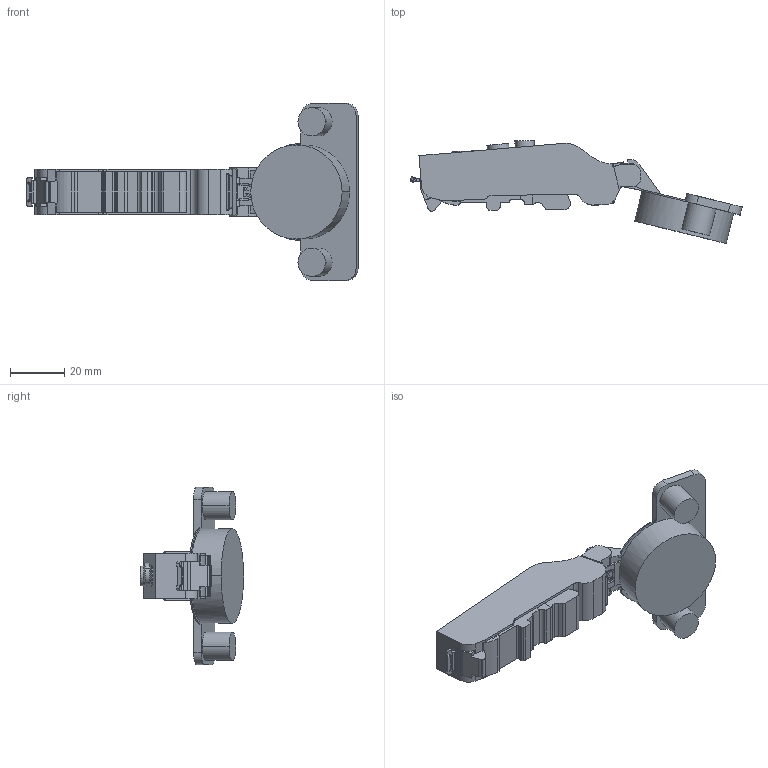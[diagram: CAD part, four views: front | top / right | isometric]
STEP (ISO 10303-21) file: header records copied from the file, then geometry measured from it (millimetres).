
FILE_DESCRIPTION (( 'STEP AP203' ), '1' );
FILE_NAME ('C81A877MFAB DTC 3D OPEN.STEP', '2024-07-18T07:28:27', ( '微软用户' ), ( '微软中国' ), 'SwSTEP 2.0', 'SolidWorks 2021', '' );
FILE_SCHEMA (( 'CONFIG_CONTROL_DESIGN' ));
Length unit declared in the file: millimetre
Products named in the file (1): C81A877MFAB DTC 3D OPEN
Bounding box: 122.83 x 38.13 x 65.6 mm (x, y, z)
Volume: 43059.7 mm3; surface area: 13233.7 mm2
Topology: 1 solids, 2 shells, 392 faces, 1126 edges, 744 vertices
Faces by surface type: plane 205, cylinder 145, torus 20, bspline 16, cone 6
Entity records: 13619 total; most frequent: CARTESIAN_POINT 3372, ORIENTED_EDGE 2252, DIRECTION 2050, EDGE_CURVE 1126, VERTEX_POINT 744, AXIS2_PLACEMENT_3D 704, LINE 642, VECTOR 642
